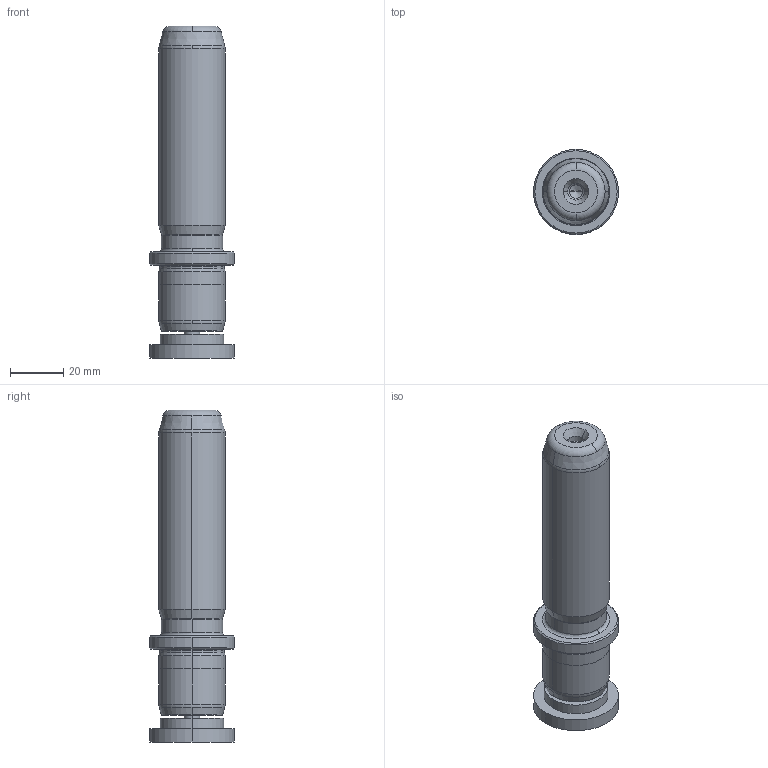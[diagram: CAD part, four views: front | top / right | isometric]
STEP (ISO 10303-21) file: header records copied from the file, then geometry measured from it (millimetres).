
FILE_DESCRIPTION((''),'2;1');
FILE_NAME('P22_025_090.stp','2009-02-02T15:34:54',(''),(''),'Mechanical Desktop 2009','Mechanical Desktop 2009',', , ');
FILE_SCHEMA(('CONFIG_CONTROL_DESIGN'));
Length unit declared in the file: millimetre
Products named in the file (2): Product; blmdl1
Assembly tree (1 placements, depth 2):
  Product
    blmdl1
Bounding box: 32 x 32 x 125 mm (x, y, z)
Volume: 61342.2 mm3; surface area: 14344.6 mm2
Topology: 3 solids, 3 shells, 99 faces, 237 edges, 149 vertices
Faces by surface type: cylinder 32, cone 28, plane 19, torus 10, bspline 10
Entity records: 3419 total; most frequent: CARTESIAN_POINT 923, DIRECTION 570, ORIENTED_EDGE 466, AXIS2_PLACEMENT_3D 246, EDGE_CURVE 233, CIRCLE 155, VERTEX_POINT 149, EDGE_LOOP 110
